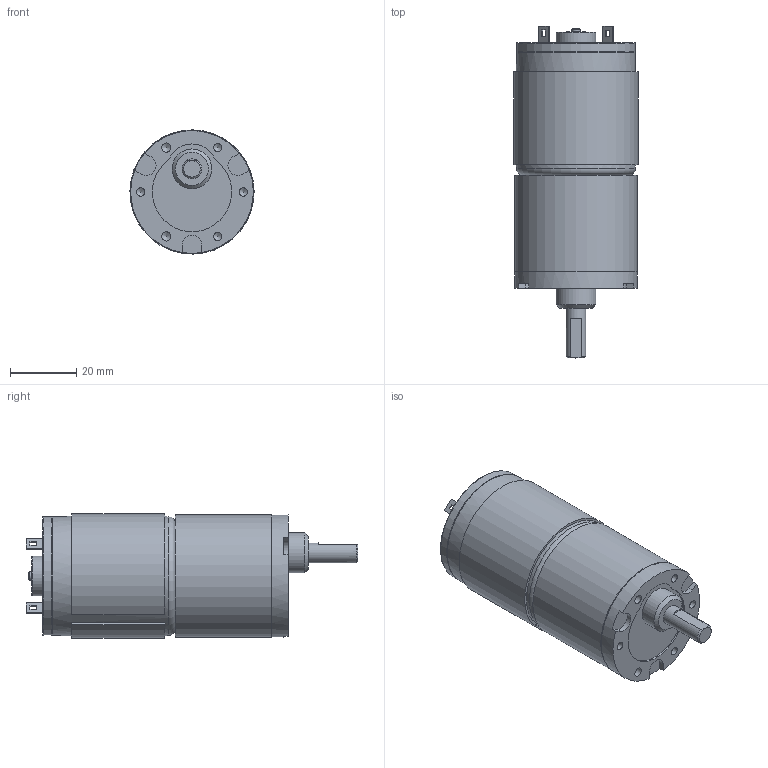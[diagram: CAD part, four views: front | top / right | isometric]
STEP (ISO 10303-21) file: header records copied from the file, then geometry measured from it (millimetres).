
FILE_DESCRIPTION((''),'2;1');
FILE_NAME('C:\Documents and Settings\SSEGAWA\デスクトップ\TP-3640B-KS-6.STP','2013-07-18T17:06:47',('SSEGAWA'),(''),'Autodesk Inventor 2010','Autodesk Inventor 2010','');
FILE_SCHEMA(('CONFIG_CONTROL_DESIGN'));
Length unit declared in the file: millimetre
Products named in the file (1): tp_3640bce_ks_6_Shrinkwrap_1
Bounding box: 37.5 x 100.2 x 37.5 mm (x, y, z)
Volume: 80682.7 mm3; surface area: 12641.5 mm2
Topology: 4 solids, 4 shells, 100 faces, 234 edges, 155 vertices
Faces by surface type: plane 56, bspline 20, cylinder 18, cone 3, torus 3
Full cylindrical faces by diameter (mm): 2.5 x1, 4 x1, 4.5 x1, 6 x1, 12 x2, 35.6 x1, 36 x2, 36.6 x1, 37 x2
Entity records: 2839 total; most frequent: CARTESIAN_POINT 698, DIRECTION 403, ORIENTED_EDGE 354, EDGE_CURVE 177, EDGE_LOOP 151, AXIS2_PLACEMENT_3D 147, VERTEX_POINT 132, VECTOR 109
